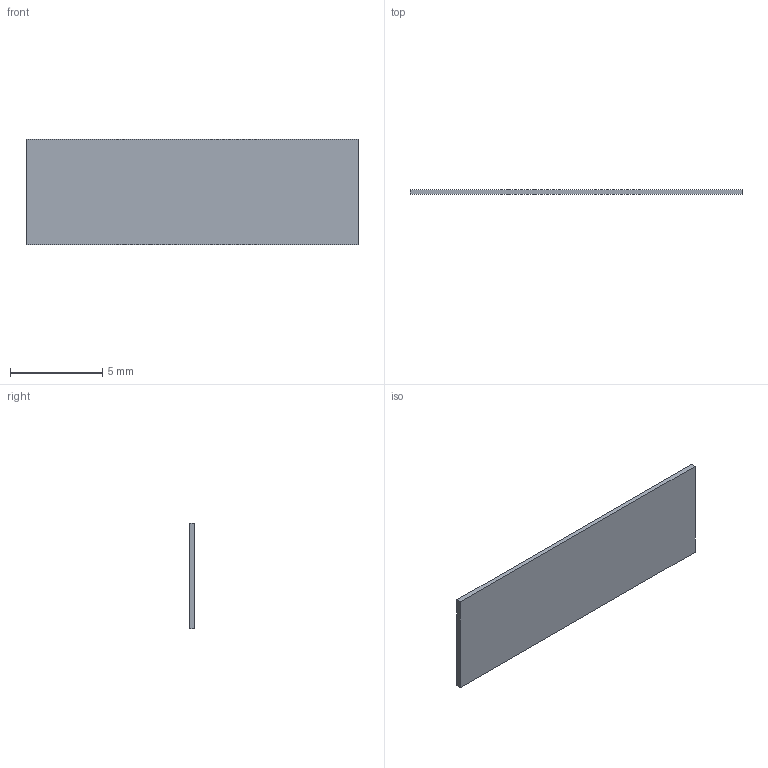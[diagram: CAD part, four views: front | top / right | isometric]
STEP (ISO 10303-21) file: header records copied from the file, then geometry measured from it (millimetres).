
FILE_DESCRIPTION(('Open CASCADE Model'),'2;1');
FILE_NAME('C27_R2_Battery_Upper_Liner_1','2026-09-09T17:52:57',('Author' ),('Open CASCADE'),'Open CASCADE STEP processor 7.9','build123d', 'Unknown');
FILE_SCHEMA(('AUTOMOTIVE_DESIGN { 1 0 10303 214 1 1 1 1 }'));
Length unit declared in the file: millimetre
Products named in the file (1): C27_R2_Battery_Upper_Liner_1
Bounding box: 18 x 0.26 x 5.7 mm (x, y, z)
Volume: 26.7 mm3; surface area: 217.5 mm2
Topology: 1 solids, 1 shells, 6 faces, 12 edges, 8 vertices
Faces by surface type: plane 6
Entity records: 322 total; most frequent: CARTESIAN_POINT 51, DIRECTION 50, LINE 36, VECTOR 36, ORIENTED_EDGE 24, PCURVE 24, DEFINITIONAL_REPRESENTATION 24, EDGE_CURVE 12
